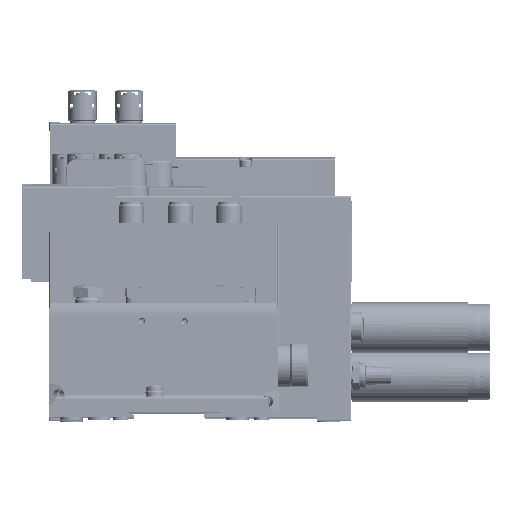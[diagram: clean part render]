
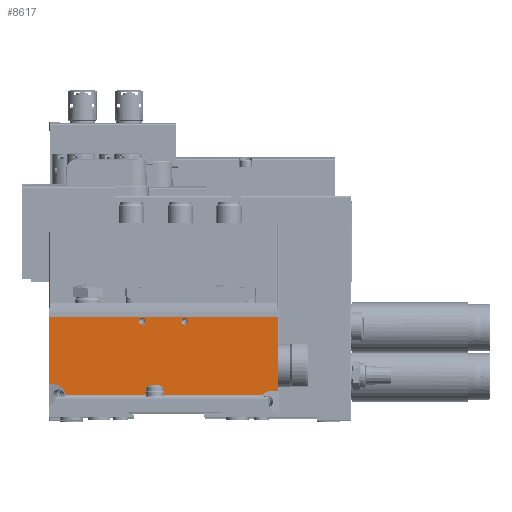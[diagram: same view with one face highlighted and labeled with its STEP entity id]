
A CAD part, top view. The second image highlights one B-rep face of the part: STEP entity #8617.
In plain terms, the highlighted planar face has unit normal (0, 0, 1) as drawn and (-1, 0, 0) by its records, which use the part's own axes.
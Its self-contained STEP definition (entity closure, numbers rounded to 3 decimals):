
#8617 = ADVANCED_FACE( '', ( #19494, #19495, #19496 ), #19497, .F. );
#19494 = FACE_BOUND( '', #32989, .T. );
#19495 = FACE_BOUND( '', #32990, .T. );
#19496 = FACE_OUTER_BOUND( '', #32991, .T. );
#19497 = PLANE( '', #32992 );
#32989 = EDGE_LOOP( '', ( #56244 ) );
#32990 = EDGE_LOOP( '', ( #56245 ) );
#32991 = EDGE_LOOP( '', ( #56246, #56247, #56248, #56249, #56250, #56251, #56252, #56253 ) );
#32992 = AXIS2_PLACEMENT_3D( '', #56254, #56255, #56256 );
#56244 = ORIENTED_EDGE( '', *, *, #82209, .T. );
#56245 = ORIENTED_EDGE( '', *, *, #82210, .T. );
#56246 = ORIENTED_EDGE( '', *, *, #82211, .T. );
#56247 = ORIENTED_EDGE( '', *, *, #82212, .T. );
#56248 = ORIENTED_EDGE( '', *, *, #78982, .F. );
#56249 = ORIENTED_EDGE( '', *, *, #82213, .F. );
#56250 = ORIENTED_EDGE( '', *, *, #82097, .F. );
#56251 = ORIENTED_EDGE( '', *, *, #80990, .T. );
#56252 = ORIENTED_EDGE( '', *, *, #75919, .F. );
#56253 = ORIENTED_EDGE( '', *, *, #82214, .T. );
#56254 = CARTESIAN_POINT( '', ( -15.4, 48.7, 54.05 ) );
#56255 = DIRECTION( '', ( 1., 0., 0. ) );
#56256 = DIRECTION( '', ( 0., 0., -1. ) );
#75919 = EDGE_CURVE( '', #90475, #90459, #90477, .T. );
#78982 = EDGE_CURVE( '', #95577, #95578, #95579, .F. );
#80990 = EDGE_CURVE( '', #98624, #90459, #98626, .T. );
#82097 = EDGE_CURVE( '', #98624, #100231, #100232, .F. );
#82209 = EDGE_CURVE( '', #100390, #100390, #100391, .T. );
#82210 = EDGE_CURVE( '', #100392, #100392, #100393, .T. );
#82211 = EDGE_CURVE( '', #100394, #100395, #100396, .T. );
#82212 = EDGE_CURVE( '', #100395, #95578, #100397, .T. );
#82213 = EDGE_CURVE( '', #100231, #95577, #100398, .T. );
#82214 = EDGE_CURVE( '', #90475, #100394, #100399, .T. );
#90459 = VERTEX_POINT( '', #111405 );
#90475 = VERTEX_POINT( '', #111428 );
#90477 = LINE( '', #111430, #111431 );
#95577 = VERTEX_POINT( '', #118855 );
#95578 = VERTEX_POINT( '', #118856 );
#95579 = ELLIPSE( '', #118857, 5.176, 5. );
#98624 = VERTEX_POINT( '', #123364 );
#98626 = LINE( '', #123367, #123368 );
#100231 = VERTEX_POINT( '', #125622 );
#100232 = ELLIPSE( '', #125623, 5.132, 5. );
#100390 = VERTEX_POINT( '', #125920 );
#100391 = CIRCLE( '', #125921, 1.55 );
#100392 = VERTEX_POINT( '', #125922 );
#100393 = CIRCLE( '', #125923, 1.55 );
#100394 = VERTEX_POINT( '', #125924 );
#100395 = VERTEX_POINT( '', #125925 );
#100396 = LINE( '', #125926, #125927 );
#100397 = LINE( '', #125928, #125929 );
#100398 = LINE( '', #125930, #125931 );
#100399 = LINE( '', #125932, #125933 );
#111405 = CARTESIAN_POINT( '', ( -15.4, 13.8, 54.05 ) );
#111428 = CARTESIAN_POINT( '', ( -15.4, 48.7, 54.05 ) );
#111430 = CARTESIAN_POINT( '', ( -15.4, 48.7, 54.05 ) );
#111431 = VECTOR( '', #136506, 1000. );
#118855 = CARTESIAN_POINT( '', ( -15.4, 11.6, -46.319 ) );
#118856 = CARTESIAN_POINT( '', ( -15.4, 16.8, -51.491 ) );
#118857 = AXIS2_PLACEMENT_3D( '', #140429, #140430, #140431 );
#123364 = CARTESIAN_POINT( '', ( -15.4, 13.8, 50.92 ) );
#123367 = CARTESIAN_POINT( '', ( -15.4, 13.8, 54.05 ) );
#123368 = VECTOR( '', #142945, 1000. );
#125622 = CARTESIAN_POINT( '', ( -15.4, 11.6, 46.669 ) );
#125623 = AXIS2_PLACEMENT_3D( '', #144341, #144342, #144343 );
#125920 = CARTESIAN_POINT( '', ( -15.4, 46.55, -11.55 ) );
#125921 = AXIS2_PLACEMENT_3D( '', #144454, #144455, #144456 );
#125922 = CARTESIAN_POINT( '', ( -15.4, 46.55, 8.45 ) );
#125923 = AXIS2_PLACEMENT_3D( '', #144457, #144458, #144459 );
#125924 = CARTESIAN_POINT( '', ( -15.4, 48.7, -54.05 ) );
#125925 = CARTESIAN_POINT( '', ( -15.4, 16.8, -54.05 ) );
#125926 = CARTESIAN_POINT( '', ( -15.4, 48.7, -54.05 ) );
#125927 = VECTOR( '', #144460, 1000. );
#125928 = CARTESIAN_POINT( '', ( -15.4, 16.8, 54.05 ) );
#125929 = VECTOR( '', #144461, 1000. );
#125930 = CARTESIAN_POINT( '', ( -15.4, 11.6, 54.05 ) );
#125931 = VECTOR( '', #144462, 1000. );
#125932 = CARTESIAN_POINT( '', ( -15.4, 48.7, 54.05 ) );
#125933 = VECTOR( '', #144463, 1000. );
#136506 = DIRECTION( '', ( 0., -1., 0. ) );
#140429 = CARTESIAN_POINT( '', ( -15.4, 11.8, -51.491 ) );
#140430 = DIRECTION( '', ( 1., 0., 0. ) );
#140431 = DIRECTION( '', ( 0., 0., 1. ) );
#142945 = DIRECTION( '', ( 0., 0., 1. ) );
#144341 = CARTESIAN_POINT( '', ( -15.4, 8.8, 50.92 ) );
#144342 = DIRECTION( '', ( 1., 0., 0. ) );
#144343 = DIRECTION( '', ( 0., 0., -1. ) );
#144454 = CARTESIAN_POINT( '', ( -15.4, 46.55, -10. ) );
#144455 = DIRECTION( '', ( 1., 0., 0. ) );
#144456 = DIRECTION( '', ( 0., 0., -1. ) );
#144457 = CARTESIAN_POINT( '', ( -15.4, 46.55, 10. ) );
#144458 = DIRECTION( '', ( 1., 0., 0. ) );
#144459 = DIRECTION( '', ( 0., 0., -1. ) );
#144460 = DIRECTION( '', ( 0., -1., 0. ) );
#144461 = DIRECTION( '', ( 0., 0., 1. ) );
#144462 = DIRECTION( '', ( 0., 0., -1. ) );
#144463 = DIRECTION( '', ( 0., 0., -1. ) );
